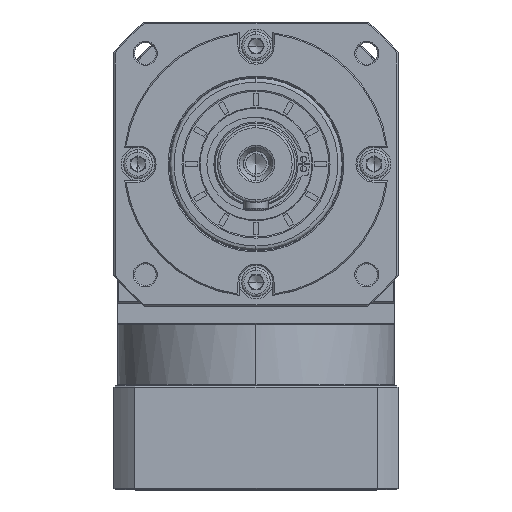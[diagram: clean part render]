
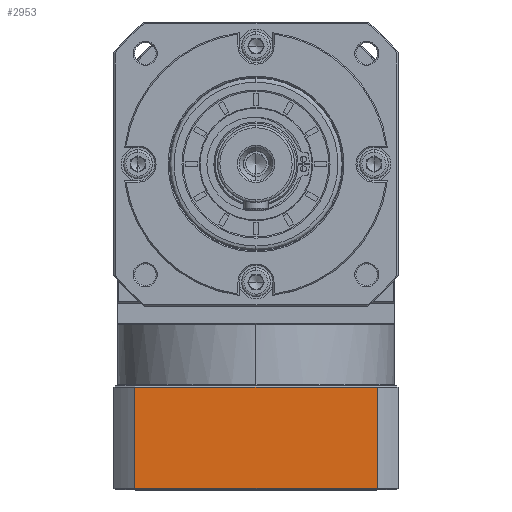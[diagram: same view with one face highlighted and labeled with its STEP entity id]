
A CAD part, top view. The second image highlights one B-rep face of the part: STEP entity #2953.
In plain terms, the highlighted planar face has unit normal (0, 0, 1).
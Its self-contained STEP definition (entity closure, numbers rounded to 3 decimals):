
#2953 = ADVANCED_FACE ( 'NONE', ( #9751 ), #97828, .F. ) ;
#6529 = DIRECTION ( 'NONE',  ( 0., 0., -1. ) ) ;
#9751 = FACE_OUTER_BOUND ( 'NONE', #136438, .T. ) ;
#15641 = DIRECTION ( 'NONE',  ( 1., 0., 0. ) ) ;
#15706 = VERTEX_POINT ( 'NONE', #169604 ) ;
#22646 = CARTESIAN_POINT ( 'NONE',  ( -273.632, -163.887, 40.539 ) ) ;
#30299 = LINE ( 'NONE', #99500, #73476 ) ;
#44547 = LINE ( 'NONE', #124135, #87778 ) ;
#47748 = CARTESIAN_POINT ( 'NONE',  ( -173.128, -163.887, 40.539 ) ) ;
#51542 = VERTEX_POINT ( 'NONE', #47748 ) ;
#58535 = VERTEX_POINT ( 'NONE', #22646 ) ;
#59575 = VERTEX_POINT ( 'NONE', #116723 ) ;
#64868 = VECTOR ( 'NONE', #15641, 1000. ) ;
#73476 = VECTOR ( 'NONE', #125895, 1000. ) ;
#75233 = CARTESIAN_POINT ( 'NONE',  ( -282.38, -205.887, 40.539 ) ) ;
#80473 = EDGE_CURVE ( 'NONE', #59575, #58535, #44547, .T. ) ;
#80642 = ORIENTED_EDGE ( 'NONE', *, *, #163630, .F. ) ;
#81854 = ORIENTED_EDGE ( 'NONE', *, *, #169108, .F. ) ;
#87778 = VECTOR ( 'NONE', #97723, 1000. ) ;
#92470 = AXIS2_PLACEMENT_3D ( 'NONE', #111060, #6529, #149504 ) ;
#97723 = DIRECTION ( 'NONE',  ( 0., 1., 0. ) ) ;
#97828 = PLANE ( 'NONE',  #92470 ) ;
#99500 = CARTESIAN_POINT ( 'NONE',  ( -173.128, 58.009, 40.539 ) ) ;
#111060 = CARTESIAN_POINT ( 'NONE',  ( -282.38, -206.387, 40.539 ) ) ;
#113338 = EDGE_CURVE ( 'NONE', #51542, #15706, #30299, .T. ) ;
#114812 = DIRECTION ( 'NONE',  ( -1., 0., 0. ) ) ;
#116723 = CARTESIAN_POINT ( 'NONE',  ( -273.632, -205.887, 40.539 ) ) ;
#118175 = LINE ( 'NONE', #148116, #64868 ) ;
#124135 = CARTESIAN_POINT ( 'NONE',  ( -273.632, -206.387, 40.539 ) ) ;
#125895 = DIRECTION ( 'NONE',  ( 0., -1., 0. ) ) ;
#128956 = ORIENTED_EDGE ( 'NONE', *, *, #113338, .F. ) ;
#136438 = EDGE_LOOP ( 'NONE', ( #128956, #81854, #165727, #80642 ) ) ;
#148116 = CARTESIAN_POINT ( 'NONE',  ( -282.38, -163.887, 40.539 ) ) ;
#148473 = VECTOR ( 'NONE', #114812, 1000. ) ;
#149504 = DIRECTION ( 'NONE',  ( -1., 0., 0. ) ) ;
#163630 = EDGE_CURVE ( 'NONE', #15706, #59575, #164772, .T. ) ;
#164772 = LINE ( 'NONE', #75233, #148473 ) ;
#165727 = ORIENTED_EDGE ( 'NONE', *, *, #80473, .F. ) ;
#169108 = EDGE_CURVE ( 'NONE', #58535, #51542, #118175, .T. ) ;
#169604 = CARTESIAN_POINT ( 'NONE',  ( -173.128, -205.887, 40.539 ) ) ;
